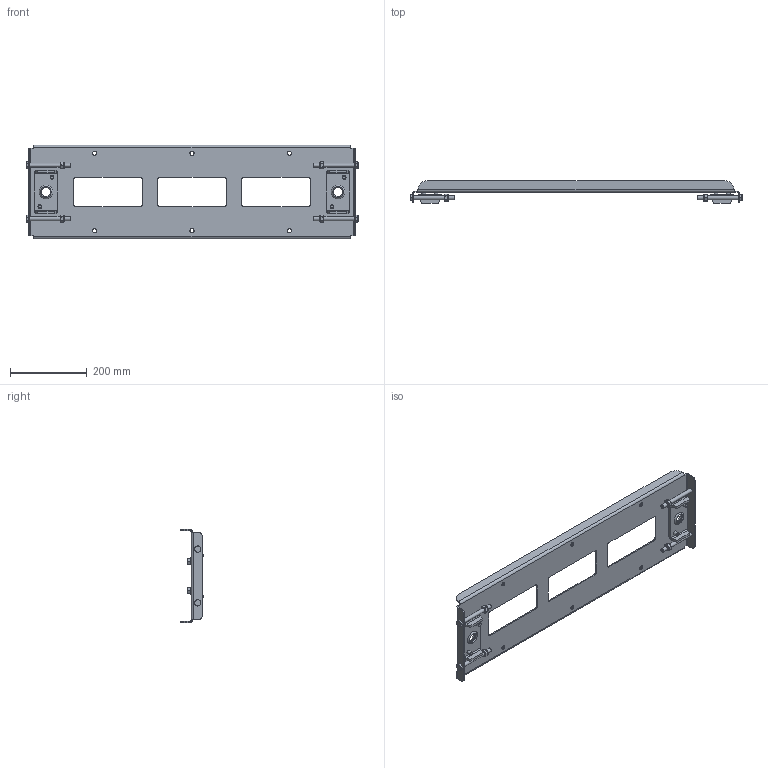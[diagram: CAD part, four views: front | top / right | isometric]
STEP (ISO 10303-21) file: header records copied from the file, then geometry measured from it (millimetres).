
FILE_DESCRIPTION(/* description */ (''),/* implementation_level */ '2;1');
FILE_NAME(/* name */ 'MRAA42051-30.002.stp',/* time_stamp */ '2026-01-20T11:11:51-05:00',/* author */ (''),/* organization */ (''),/* preprocessor_version */ 'ST-DEVELOPER v20',/* originating_system */ 'SIEMENS PLM Software NX2406.9101',/* authorisation */ '');
FILE_SCHEMA (('AUTOMOTIVE_DESIGN { 1 0 10303 214 3 1 1 1 }'));
Length unit declared in the file: millimetre
Products named in the file (1): MRAA42051-30.002
Bounding box: 866.08 x 58.74 x 243.68 mm (x, y, z)
Volume: 1675960 mm3; surface area: 1019245.9 mm2
Topology: 38 solids, 38 shells, 916 faces, 2172 edges, 1348 vertices
Faces by surface type: plane 428, cylinder 224, cone 120, torus 104, bspline 32, sphere 8
Full cylindrical faces by diameter (mm): 8.636 x8, 10 x24, 10.922 x20, 16.75 x8, 44.45 x4
Entity records: 33805 total; most frequent: CARTESIAN_POINT 7053, ORIENTED_EDGE 4072, DIRECTION 3938, EDGE_CURVE 2036, AXIS2_PLACEMENT_3D 1529, VERTEX_POINT 1316, EDGE_LOOP 1168, PRESENTATION_STYLE_ASSIGNMENT 954
